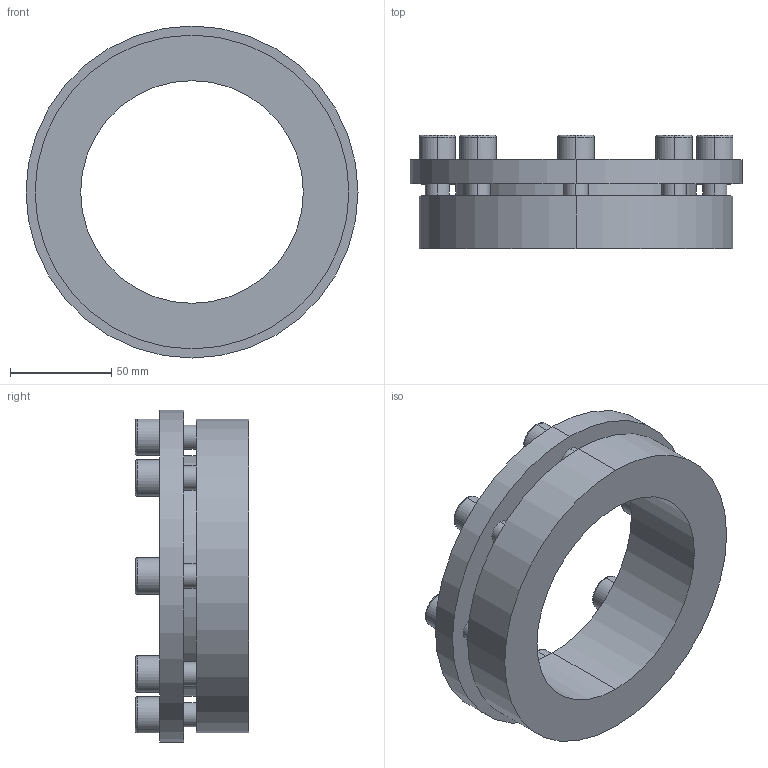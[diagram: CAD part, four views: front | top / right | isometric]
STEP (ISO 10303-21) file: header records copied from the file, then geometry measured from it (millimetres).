
FILE_DESCRIPTION (( 'STEP AP203' ), '1' );
FILE_NAME ('PL-H6 110-155.STEP', '2021-10-23T01:38:39', ( '' ), ( '' ), 'SwSTEP 2.0', 'SolidWorks 2018', '' );
FILE_SCHEMA (( 'CONFIG_CONTROL_DESIGN' ));
Length unit declared in the file: millimetre
Products named in the file (1): PL-H6 110-155
Bounding box: 164 x 56 x 164 mm (x, y, z)
Volume: 418280 mm3; surface area: 81921.2 mm2
Topology: 1 solids, 1 shells, 124 faces, 296 edges, 192 vertices
Faces by surface type: plane 68, cylinder 40, torus 16
Entity records: 3717 total; most frequent: DIRECTION 658, CARTESIAN_POINT 613, ORIENTED_EDGE 592, EDGE_CURVE 296, AXIS2_PLACEMENT_3D 237, VERTEX_POINT 192, VECTOR 184, LINE 184
